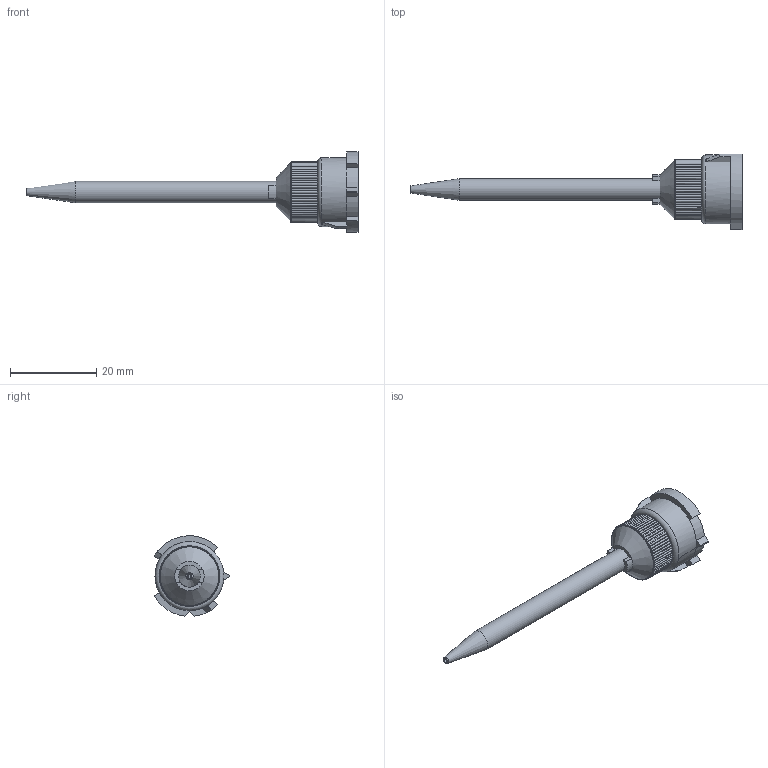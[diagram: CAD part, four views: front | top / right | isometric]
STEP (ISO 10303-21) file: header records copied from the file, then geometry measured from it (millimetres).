
FILE_DESCRIPTION(/* description */ (''),/* implementation_level */ '2;1');
FILE_NAME(/* name */ 'A:\1 WIP\1826921 Static Mix Nozzle 3.2mm Round, 16 Elements, 76.5 Lg, Slip Luer Tip, 10 Pack.stp',/* time_stamp */ '2014-09-12T07:58:37-04:00',/* author */ ('patch'),/* organization */ (''),/* preprocessor_version */ 'ST-DEVELOPER v15.6',/* originating_system */ 'Autodesk Inventor 2015',/* authorisation */ '');
FILE_SCHEMA (('AUTOMOTIVE_DESIGN { 1 0 10303 214 3 1 1 }'));
Length unit declared in the file: inch
Products named in the file (4): 8902328 Static Mixer Elements; 8902328 Static Mixer Housing; 8902328 Static Mixer Cap; 1826921 Static Mix Nozzle 3.2mm Round, 16 Elements, 76.5 Lg, Slip Lue
r Tip, 10 Pack
Bounding box: 77 x 17.53 x 18.61 mm (x, y, z)
Volume: 2418.7 mm3; surface area: 5722.3 mm2
Topology: 24 solids, 24 shells, 617 faces, 1527 edges, 965 vertices
Faces by surface type: plane 353, cylinder 105, torus 80, bspline 64, cone 15
Full cylindrical faces by diameter (mm): 3.2 x1, 3.785 x2, 4.597 x2, 4.999 x1, 5.1 x1, 9.599 x2, 9.6 x2, 10.15 x1, 10.201 x1, 12.05 x1, 12.15 x1, 13.6 x1, 13.8 x1, 13.919 x1, 14.2 x1, 16 x1
Entity records: 22142 total; most frequent: CARTESIAN_POINT 7123, DIRECTION 2980, ORIENTED_EDGE 2948, EDGE_CURVE 1474, AXIS2_PLACEMENT_3D 1157, VERTEX_POINT 955, EDGE_LOOP 675, LINE 666
